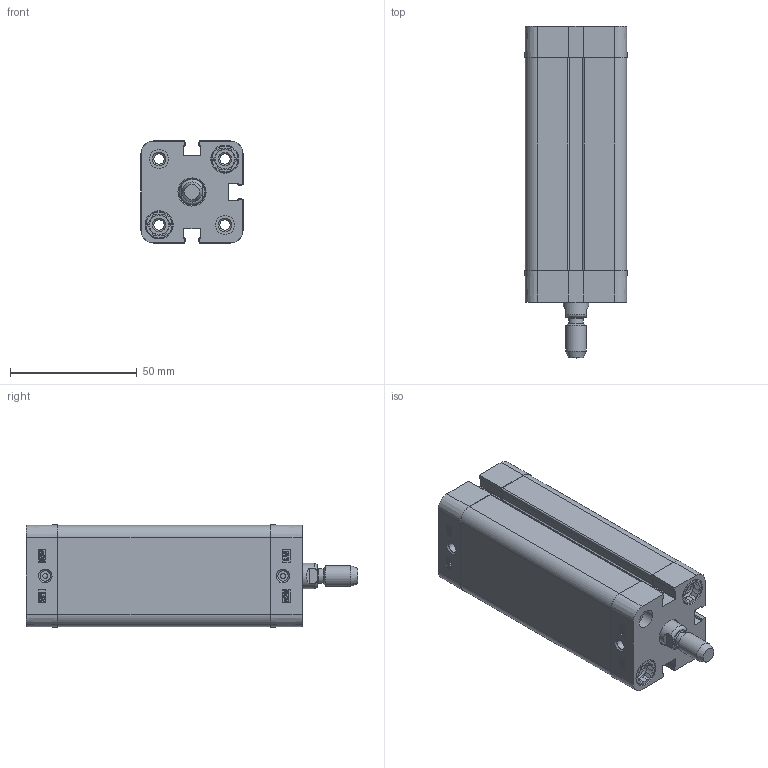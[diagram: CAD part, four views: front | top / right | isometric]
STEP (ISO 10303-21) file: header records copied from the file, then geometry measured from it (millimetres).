
FILE_DESCRIPTION((''),'2;1');
FILE_NAME('T:\Archivio Inventor\- CATALOGHI 2012\SERIE P - NUOVA\PDM\PDM025\PDM025.---.GS.M\PDM025.070.GS.M.stp','2013-01-31T08:07:41',('Administrator'),(''),'Autodesk Inventor 2012','Autodesk Inventor 2012','');
FILE_SCHEMA(('CONFIG_CONTROL_DESIGN'));
Length unit declared in the file: millimetre
Products named in the file (1): PDM025.070.GS.M
Bounding box: 40.3 x 131 x 40.3 mm (x, y, z)
Volume: 92115.7 mm3; surface area: 47031.1 mm2
Topology: 1 solids, 3 shells, 596 faces, 1552 edges, 1017 vertices
Faces by surface type: plane 312, cylinder 130, bspline 92, cone 50, torus 12
Full cylindrical faces by diameter (mm): 2 x2, 4.134 x10, 5.8 x1, 7.5 x4, 7.55 x2, 8 x9, 9 x1, 10 x1, 10.5 x1, 10.8 x4, 11.1 x4, 25 x1, 27.3 x1, 27.5 x1
Entity records: 18782 total; most frequent: CARTESIAN_POINT 4306, ORIENTED_EDGE 2888, DIRECTION 2606, EDGE_CURVE 1444, VERTEX_POINT 1002, VECTOR 898, LINE 898, AXIS2_PLACEMENT_3D 854
